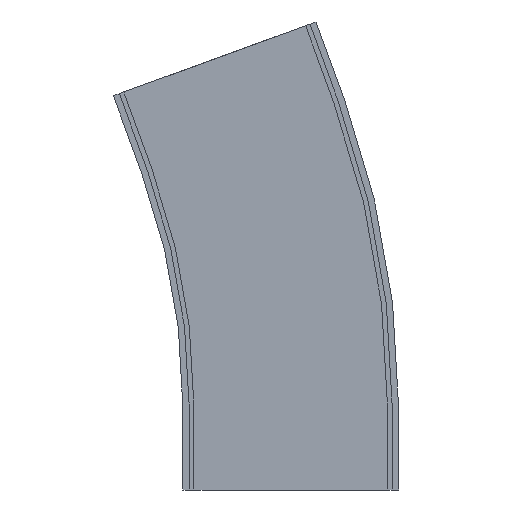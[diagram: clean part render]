
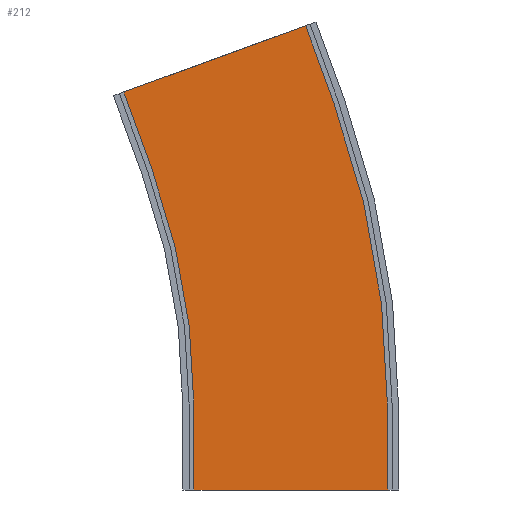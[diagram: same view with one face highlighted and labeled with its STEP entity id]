
A CAD part, left-side view. The second image highlights one B-rep face of the part: STEP entity #212.
In plain terms, the highlighted planar face has unit normal (-1, 0, 0).
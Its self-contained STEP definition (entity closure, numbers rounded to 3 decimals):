
#11 = CIRCLE ( 'NONE', #127, 438.75 ) ;
#38 = CARTESIAN_POINT ( 'NONE',  ( -325.25, 61.25, 52.5 ) ) ;
#53 = DIRECTION ( 'NONE',  ( 0., 0.342, 0.94 ) ) ;
#89 = CARTESIAN_POINT ( 'NONE',  ( -325.25, 500., 52.5 ) ) ;
#92 = CARTESIAN_POINT ( 'NONE',  ( -325.25, -61.25, 52.5 ) ) ;
#108 = VERTEX_POINT ( 'NONE', #606 ) ;
#110 = CARTESIAN_POINT ( 'NONE',  ( -325.25, 87.71, 202.561 ) ) ;
#127 = AXIS2_PLACEMENT_3D ( 'NONE', #89, #938, #1157 ) ;
#158 = DIRECTION ( 'NONE',  ( 0., 0., -1. ) ) ;
#160 = VECTOR ( 'NONE', #158, 1000. ) ;
#164 = VERTEX_POINT ( 'NONE', #624 ) ;
#189 = EDGE_CURVE ( 'NONE', #426, #164, #580, .T. ) ;
#193 = DIRECTION ( 'NONE',  ( 0., 0., -1. ) ) ;
#202 = PLANE ( 'NONE',  #483 ) ;
#210 = DIRECTION ( 'NONE',  ( 1., 0., 0. ) ) ;
#212 = ADVANCED_FACE ( 'NONE', ( #275 ), #202, .F. ) ;
#234 = EDGE_CURVE ( 'NONE', #108, #747, #679, .T. ) ;
#250 = CARTESIAN_POINT ( 'NONE',  ( -325.25, 500., 52.5 ) ) ;
#275 = FACE_OUTER_BOUND ( 'NONE', #676, .T. ) ;
#308 = ORIENTED_EDGE ( 'NONE', *, *, #537, .T. ) ;
#314 = ORIENTED_EDGE ( 'NONE', *, *, #189, .F. ) ;
#316 = EDGE_CURVE ( 'NONE', #486, #860, #11, .T. ) ;
#327 = CARTESIAN_POINT ( 'NONE',  ( -325.25, 61.25, 0. ) ) ;
#426 = VERTEX_POINT ( 'NONE', #932 ) ;
#430 = VECTOR ( 'NONE', #1410, 1000. ) ;
#444 = DIRECTION ( 'NONE',  ( 0., -0.94, 0.342 ) ) ;
#483 = AXIS2_PLACEMENT_3D ( 'NONE', #92, #210, #955 ) ;
#486 = VERTEX_POINT ( 'NONE', #1155 ) ;
#537 = EDGE_CURVE ( 'NONE', #486, #900, #854, .T. ) ;
#544 = VECTOR ( 'NONE', #692, 1000. ) ;
#548 = VERTEX_POINT ( 'NONE', #1346 ) ;
#580 = LINE ( 'NONE', #1261, #885 ) ;
#587 = CARTESIAN_POINT ( 'NONE',  ( -325.25, -61.25, 0. ) ) ;
#606 = CARTESIAN_POINT ( 'NONE',  ( -325.25, -27.402, 244.459 ) ) ;
#614 = ORIENTED_EDGE ( 'NONE', *, *, #234, .T. ) ;
#624 = CARTESIAN_POINT ( 'NONE',  ( -325.25, -61.25, 0. ) ) ;
#676 = EDGE_LOOP ( 'NONE', ( #868, #314, #818, #614, #1099, #1291, #709, #308 ) ) ;
#679 = LINE ( 'NONE', #848, #430 ) ;
#692 = DIRECTION ( 'NONE',  ( 0., -1., 0. ) ) ;
#709 = ORIENTED_EDGE ( 'NONE', *, *, #316, .F. ) ;
#741 = AXIS2_PLACEMENT_3D ( 'NONE', #250, #1225, #1213 ) ;
#747 = VERTEX_POINT ( 'NONE', #1266 ) ;
#801 = CIRCLE ( 'NONE', #741, 561.25 ) ;
#818 = ORIENTED_EDGE ( 'NONE', *, *, #1220, .T. ) ;
#848 = CARTESIAN_POINT ( 'NONE',  ( -325.25, -27.402, 244.459 ) ) ;
#854 = LINE ( 'NONE', #38, #160 ) ;
#860 = VERTEX_POINT ( 'NONE', #110 ) ;
#868 = ORIENTED_EDGE ( 'NONE', *, *, #1031, .T. ) ;
#880 = EDGE_CURVE ( 'NONE', #548, #747, #1094, .T. ) ;
#885 = VECTOR ( 'NONE', #193, 1000. ) ;
#900 = VERTEX_POINT ( 'NONE', #327 ) ;
#915 = CARTESIAN_POINT ( 'NONE',  ( -325.25, 87.71, 202.561 ) ) ;
#932 = CARTESIAN_POINT ( 'NONE',  ( -325.25, -61.25, 52.5 ) ) ;
#938 = DIRECTION ( 'NONE',  ( -1., 0., 0. ) ) ;
#955 = DIRECTION ( 'NONE',  ( 0., 0., -1. ) ) ;
#1031 = EDGE_CURVE ( 'NONE', #900, #164, #1058, .T. ) ;
#1043 = VECTOR ( 'NONE', #444, 1000. ) ;
#1058 = LINE ( 'NONE', #587, #544 ) ;
#1094 = LINE ( 'NONE', #1101, #1043 ) ;
#1099 = ORIENTED_EDGE ( 'NONE', *, *, #880, .F. ) ;
#1101 = CARTESIAN_POINT ( 'NONE',  ( -325.25, -9.446, 293.793 ) ) ;
#1115 = VECTOR ( 'NONE', #53, 1000. ) ;
#1155 = CARTESIAN_POINT ( 'NONE',  ( -325.25, 61.25, 52.5 ) ) ;
#1157 = DIRECTION ( 'NONE',  ( 0., 0., 1. ) ) ;
#1183 = LINE ( 'NONE', #915, #1115 ) ;
#1213 = DIRECTION ( 'NONE',  ( 0., 0., 1. ) ) ;
#1220 = EDGE_CURVE ( 'NONE', #426, #108, #801, .T. ) ;
#1225 = DIRECTION ( 'NONE',  ( -1., 0., 0. ) ) ;
#1261 = CARTESIAN_POINT ( 'NONE',  ( -325.25, -61.25, 52.5 ) ) ;
#1266 = CARTESIAN_POINT ( 'NONE',  ( -325.25, -9.446, 293.793 ) ) ;
#1291 = ORIENTED_EDGE ( 'NONE', *, *, #1398, .F. ) ;
#1346 = CARTESIAN_POINT ( 'NONE',  ( -325.25, 105.666, 251.895 ) ) ;
#1398 = EDGE_CURVE ( 'NONE', #860, #548, #1183, .T. ) ;
#1410 = DIRECTION ( 'NONE',  ( 0., 0.342, 0.94 ) ) ;
